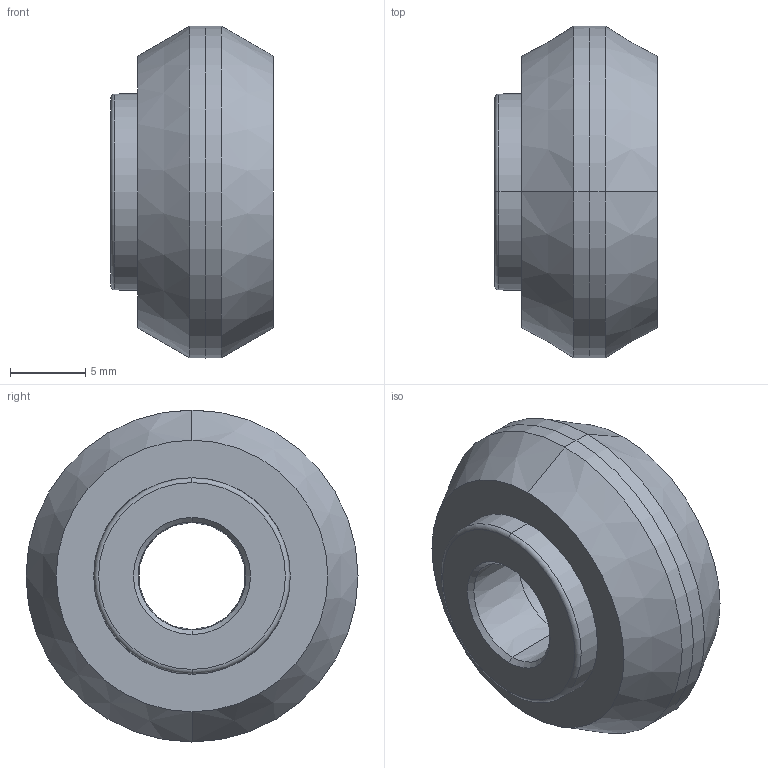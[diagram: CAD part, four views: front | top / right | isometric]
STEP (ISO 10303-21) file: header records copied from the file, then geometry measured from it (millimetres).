
FILE_DESCRIPTION (( 'STEP AP203' ), '1' );
FILE_NAME ('013.100.038.STEP', '2021-12-02T12:56:15', ( '' ), ( '' ), 'SwSTEP 2.0', 'SolidWorks 2018', '' );
FILE_SCHEMA (( 'CONFIG_CONTROL_DESIGN' ));
Length unit declared in the file: millimetre
Products named in the file (1): 013.100.038
Bounding box: 10.8 x 22 x 22 mm (x, y, z)
Volume: 2328.5 mm3; surface area: 1453.5 mm2
Topology: 1 solids, 1 shells, 26 faces, 52 edges, 30 vertices
Faces by surface type: cone 20, plane 4, torus 2
Entity records: 757 total; most frequent: DIRECTION 138, CARTESIAN_POINT 109, ORIENTED_EDGE 104, AXIS2_PLACEMENT_3D 59, EDGE_CURVE 52, CIRCLE 32, VERTEX_POINT 30, EDGE_LOOP 30
